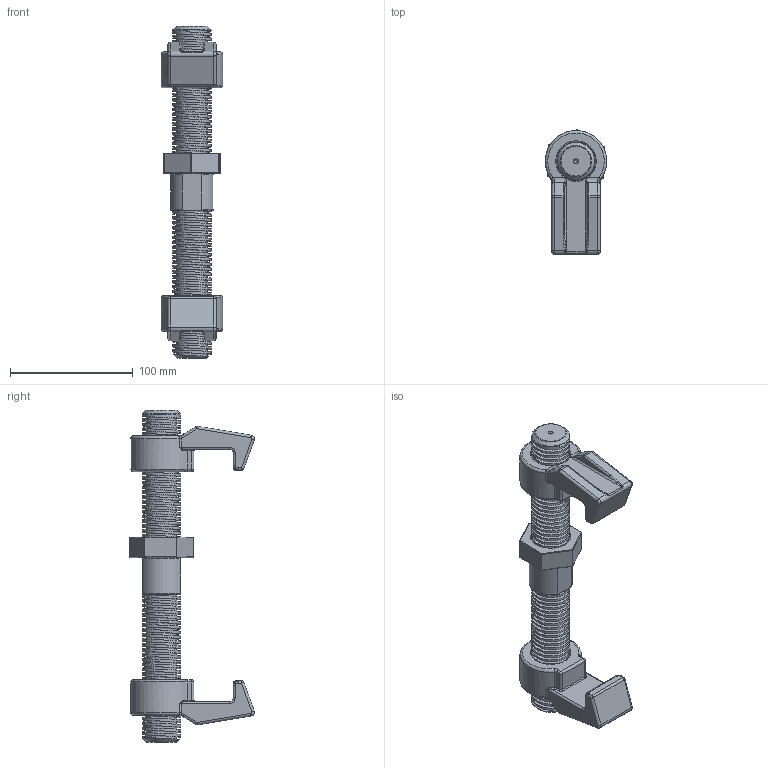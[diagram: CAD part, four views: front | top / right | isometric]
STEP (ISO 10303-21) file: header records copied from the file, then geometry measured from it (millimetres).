
FILE_DESCRIPTION(/* description */ (''),/* implementation_level */ '2;1');
FILE_NAME(/* name */ 'O:\ils2000\Natallia\INVENTOR\AutoCAD stp\NAVACQS\SB-1(S).stp',/* time_stamp */ '2016-08-12T11:58:20+02:00',/* author */ ('natallia'),/* organization */ (''),/* preprocessor_version */ 'ST-DEVELOPER v16.5',/* originating_system */ 'Autodesk Inventor 2017',/* authorisation */ '');
FILE_SCHEMA (('AUTOMOTIVE_DESIGN { 1 0 10303 214 3 1 1 }'));
Length unit declared in the file: millimetre
Products named in the file (4): SB-1; SB-4 STUD FOR; SB-1 NUT; SB-1 det3
Assembly tree (4 placements, depth 2):
  SB-1
    SB-4 STUD FOR
    SB-1 NUT
    SB-1 det3  x2
Bounding box: 49.92 x 101.36 x 270 mm (x, y, z)
Volume: 334081.2 mm3; surface area: 97612.2 mm2
Topology: 4 solids, 4 shells, 340 faces, 791 edges, 452 vertices
Faces by surface type: cylinder 113, bspline 103, plane 56, torus 44, sphere 20, cone 4
Full cylindrical faces by diameter (mm): 31 x2, 32 x1
Entity records: 21858 total; most frequent: CARTESIAN_POINT 17234, DIRECTION 954, ORIENTED_EDGE 940, EDGE_CURVE 470, AXIS2_PLACEMENT_3D 399, VERTEX_POINT 274, EDGE_LOOP 224, CIRCLE 220
